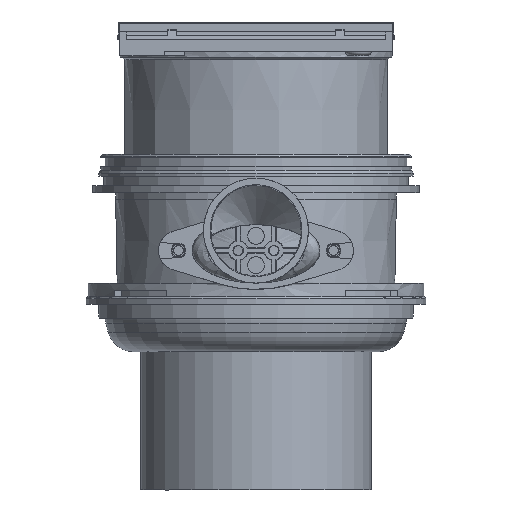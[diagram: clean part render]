
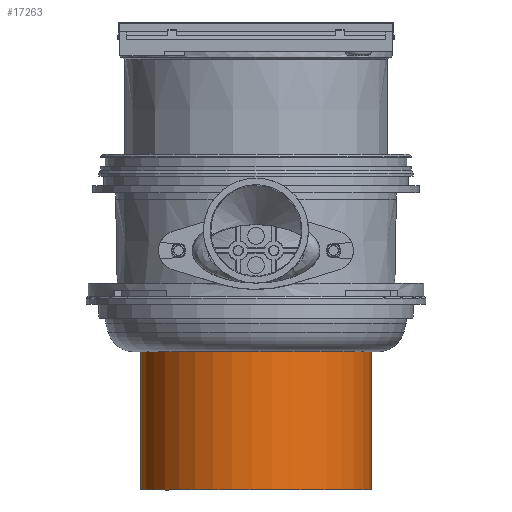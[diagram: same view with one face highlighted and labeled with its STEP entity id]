
A CAD part, left-side view. The second image highlights one B-rep face of the part: STEP entity #17263.
In plain terms, the highlighted cylindrical face has radius 55 mm (diameter 110 mm), a full revolution.
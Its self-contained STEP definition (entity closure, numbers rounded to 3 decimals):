
#317=FACE_BOUND('',#5549,.T.);
#951=CIRCLE('',#18248,55.);
#953=CIRCLE('',#18252,55.);
#4584=FACE_OUTER_BOUND('',#5548,.T.);
#5548=EDGE_LOOP('',(#11423));
#5549=EDGE_LOOP('',(#11424));
#6980=VERTEX_POINT('',#25836);
#6982=VERTEX_POINT('',#25842);
#8703=EDGE_CURVE('',#6980,#6980,#951,.T.);
#8705=EDGE_CURVE('',#6982,#6982,#953,.T.);
#11423=ORIENTED_EDGE('',*,*,#8705,.T.);
#11424=ORIENTED_EDGE('',*,*,#8703,.F.);
#16077=CYLINDRICAL_SURFACE('',#18251,55.);
#17263=ADVANCED_FACE('',(#4584,#317),#16077,.T.);
#18248=AXIS2_PLACEMENT_3D('',#25837,#19875,#19876);
#18251=AXIS2_PLACEMENT_3D('',#25841,#19881,#19882);
#18252=AXIS2_PLACEMENT_3D('',#25843,#19883,#19884);
#19875=DIRECTION('center_axis',(0.,0.,
1.));
#19876=DIRECTION('ref_axis',(0.034,0.999,0.));
#19881=DIRECTION('center_axis',(0.,0.,
1.));
#19882=DIRECTION('ref_axis',(0.034,0.999,0.));
#19883=DIRECTION('center_axis',(0.,0.,
1.));
#19884=DIRECTION('ref_axis',(0.034,0.999,0.));
#25836=CARTESIAN_POINT('',(-1.847,-54.969,-94.2));
#25837=CARTESIAN_POINT('Origin',(0.001,0.,
-94.2));
#25841=CARTESIAN_POINT('Origin',(0.001,0.,
-75.2));
#25842=CARTESIAN_POINT('',(-1.847,-54.969,-160.2));
#25843=CARTESIAN_POINT('Origin',(0.001,0.,
-160.2));
